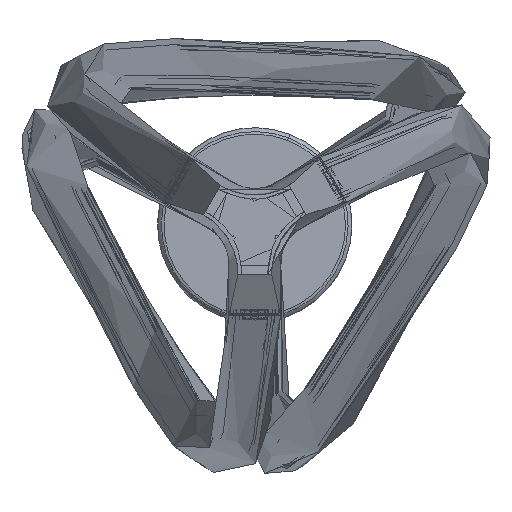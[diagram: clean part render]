
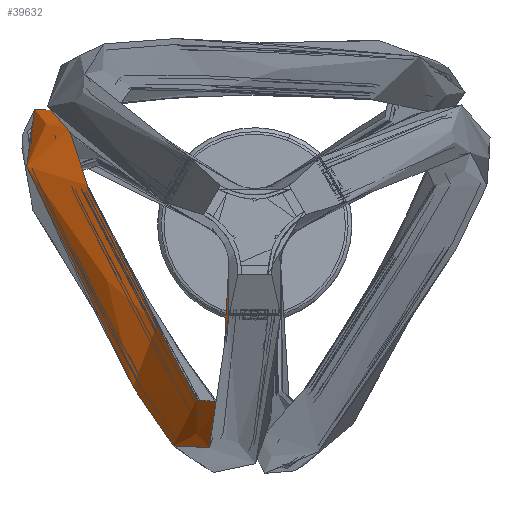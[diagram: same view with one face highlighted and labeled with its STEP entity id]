
A CAD part, front view. The second image highlights one B-rep face of the part: STEP entity #39632.
In plain terms, the highlighted free-form (B-spline) face has degree [3, 3] with [7, 7] control points.
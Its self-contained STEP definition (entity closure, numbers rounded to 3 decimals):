
#1219 = B_SPLINE_SURFACE_WITH_KNOTS ( 'NONE', 3, 3, ( 
 ( #36449, #36450, #36451, #36452, #36453, #36454, #36455 ),
 ( #36456, #36457, #36458, #36459, #36460, #36461, #36462 ),
 ( #36463, #36464, #36465, #36466, #36467, #36468, #36469 ),
 ( #36470, #36471, #36472, #36473, #36474, #36475, #36476 ),
 ( #36477, #36478, #36479, #36480, #36481, #36482, #36483 ),
 ( #36484, #36485, #36486, #36487, #36488, #36489, #36490 ),
 ( #36491, #36492, #36493, #36494, #36495, #36496, #36497 ) ),
 .UNSPECIFIED., .F., .F., .F.,
 ( 4, 1, 1, 1, 4 ),
 ( 4, 1, 1, 1, 4 ),
 ( 0., 0.038, 0.075, 0.113, 0.151 ),
 ( 0., 0.46, 0.514, 0.565, 1. ),
 .UNSPECIFIED. ) ;
#1586 = VECTOR ( 'NONE', #3356, 1000. ) ;
#1626 = VECTOR ( 'NONE', #3491, 1000. ) ;
#3138 = CARTESIAN_POINT ( 'NONE',  ( -8.451, -853.448, 16.472 ) ) ;
#3139 = CARTESIAN_POINT ( 'NONE',  ( -94.208, -462.365, 60.641 ) ) ;
#3140 = CARTESIAN_POINT ( 'NONE',  ( -39.519, -205.84, 53.57 ) ) ;
#3141 = CARTESIAN_POINT ( 'NONE',  ( 9.738, -1.236, 49.971 ) ) ;
#3142 = CARTESIAN_POINT ( 'NONE',  ( 56.871, 197.442, 47.458 ) ) ;
#3143 = CARTESIAN_POINT ( 'NONE',  ( 108.747, 461.636, 48.542 ) ) ;
#3144 = CARTESIAN_POINT ( 'NONE',  ( 18.558, 853.471, -0.832 ) ) ;
#3350 = CARTESIAN_POINT ( 'NONE',  ( -25.347, -857.777, 26.258 ) ) ;
#3354 = LINE ( 'NONE', #3355, #1586 ) ;
#3355 = CARTESIAN_POINT ( 'NONE',  ( -8.451, -853.448, 16.472 ) ) ;
#3356 = DIRECTION ( 'NONE',  ( -0.845, -0.216, 0.489 ) ) ;
#3363 = CARTESIAN_POINT ( 'NONE',  ( -106.13, -465.422, 75.071 ) ) ;
#3364 = CARTESIAN_POINT ( 'NONE',  ( -45.883, -207.475, 73.189 ) ) ;
#3365 = CARTESIAN_POINT ( 'NONE',  ( 9.703, -1.245, 70.028 ) ) ;
#3366 = CARTESIAN_POINT ( 'NONE',  ( 62.93, 199., 66.785 ) ) ;
#3367 = CARTESIAN_POINT ( 'NONE',  ( 120.467, 464.656, 62.931 ) ) ;
#3368 = CARTESIAN_POINT ( 'NONE',  ( 35.347, 857.799, 9.139 ) ) ;
#3489 = LINE ( 'NONE', #3490, #1626 ) ;
#3490 = CARTESIAN_POINT ( 'NONE',  ( -149.22, 810.213, -100.478 ) ) ;
#3491 = DIRECTION ( 'NONE',  ( -0.839, -0.216, -0.499 ) ) ;
#4259 = ORIENTED_EDGE ( 'NONE', *, *, #40099, .F. ) ;
#4267 = ORIENTED_EDGE ( 'NONE', *, *, #40057, .F. ) ;
#4273 = ORIENTED_EDGE ( 'NONE', *, *, #40060, .F. ) ;
#4292 = ORIENTED_EDGE ( 'NONE', *, *, #40026, .T. ) ;
#13157 = EDGE_LOOP ( 'NONE', ( #4267, #4292, #4259, #4273 ) ) ;
#14655 = VERTEX_POINT ( 'NONE', #27007 ) ;
#14656 = VERTEX_POINT ( 'NONE', #27008 ) ;
#15448 = VERTEX_POINT ( 'NONE', #27711 ) ;
#15453 = VERTEX_POINT ( 'NONE', #27714 ) ;
#23192 = B_SPLINE_CURVE_WITH_KNOTS ( 'NONE', 3,
 ( #3138, #3139, #3140, #3141, #3142, #3143, #3144 ),
 .UNSPECIFIED., .F., .F.,
 ( 4, 1, 1, 1, 4 ),
 ( 0., 0.46, 0.514, 0.565, 1. ),
 .UNSPECIFIED. ) ;
#23216 = B_SPLINE_CURVE_WITH_KNOTS ( 'NONE', 3,
 ( #3350, #3363, #3364, #3365, #3366, #3367, #3368 ),
 .UNSPECIFIED., .F., .F.,
 ( 4, 1, 1, 1, 4 ),
 ( 0., 0.46, 0.514, 0.565, 1. ),
 .UNSPECIFIED. ) ;
#27007 = CARTESIAN_POINT ( 'NONE',  ( 18.558, 853.471, -0.832 ) ) ;
#27008 = CARTESIAN_POINT ( 'NONE',  ( -8.451, -853.448, 16.472 ) ) ;
#27711 = CARTESIAN_POINT ( 'NONE',  ( -25.347, -857.777, 26.258 ) ) ;
#27714 = CARTESIAN_POINT ( 'NONE',  ( 35.347, 857.799, 9.139 ) ) ;
#33843 = FACE_OUTER_BOUND ( 'NONE', #13157, .T. ) ;
#36449 = CARTESIAN_POINT ( 'NONE',  ( -25.347, -857.777, 26.258 ) ) ;
#36450 = CARTESIAN_POINT ( 'NONE',  ( -106.13, -465.422, 75.071 ) ) ;
#36451 = CARTESIAN_POINT ( 'NONE',  ( -45.883, -207.475, 73.189 ) ) ;
#36452 = CARTESIAN_POINT ( 'NONE',  ( 9.703, -1.245, 70.028 ) ) ;
#36453 = CARTESIAN_POINT ( 'NONE',  ( 62.93, 199., 66.785 ) ) ;
#36454 = CARTESIAN_POINT ( 'NONE',  ( 120.467, 464.656, 62.931 ) ) ;
#36455 = CARTESIAN_POINT ( 'NONE',  ( 35.347, 857.799, 9.139 ) ) ;
#36456 = CARTESIAN_POINT ( 'NONE',  ( -23.939, -857.416, 25.443 ) ) ;
#36457 = CARTESIAN_POINT ( 'NONE',  ( -105.136, -465.167, 73.868 ) ) ;
#36458 = CARTESIAN_POINT ( 'NONE',  ( -45.352, -207.339, 71.554 ) ) ;
#36459 = CARTESIAN_POINT ( 'NONE',  ( 9.706, -1.244, 68.357 ) ) ;
#36460 = CARTESIAN_POINT ( 'NONE',  ( 62.425, 198.871, 65.175 ) ) ;
#36461 = CARTESIAN_POINT ( 'NONE',  ( 119.491, 464.404, 61.732 ) ) ;
#36462 = CARTESIAN_POINT ( 'NONE',  ( 33.948, 857.439, 8.308 ) ) ;
#36463 = CARTESIAN_POINT ( 'NONE',  ( -21.123, -856.695, 23.812 ) ) ;
#36464 = CARTESIAN_POINT ( 'NONE',  ( -103.149, -464.658, 71.463 ) ) ;
#36465 = CARTESIAN_POINT ( 'NONE',  ( -44.292, -207.066, 68.284 ) ) ;
#36466 = CARTESIAN_POINT ( 'NONE',  ( 9.712, -1.243, 65.014 ) ) ;
#36467 = CARTESIAN_POINT ( 'NONE',  ( 61.415, 198.611, 61.953 ) ) ;
#36468 = CARTESIAN_POINT ( 'NONE',  ( 117.537, 463.901, 59.334 ) ) ;
#36469 = CARTESIAN_POINT ( 'NONE',  ( 31.149, 856.717, 6.647 ) ) ;
#36470 = CARTESIAN_POINT ( 'NONE',  ( -16.899, -855.613, 21.365 ) ) ;
#36471 = CARTESIAN_POINT ( 'NONE',  ( -100.169, -463.893, 67.856 ) ) ;
#36472 = CARTESIAN_POINT ( 'NONE',  ( -42.701, -206.657, 63.38 ) ) ;
#36473 = CARTESIAN_POINT ( 'NONE',  ( 9.721, -1.24, 60. ) ) ;
#36474 = CARTESIAN_POINT ( 'NONE',  ( 59.9, 198.221, 57.122 ) ) ;
#36475 = CARTESIAN_POINT ( 'NONE',  ( 114.607, 463.146, 55.737 ) ) ;
#36476 = CARTESIAN_POINT ( 'NONE',  ( 26.952, 855.635, 4.154 ) ) ;
#36477 = CARTESIAN_POINT ( 'NONE',  ( -12.675, -854.531, 18.919 ) ) ;
#36478 = CARTESIAN_POINT ( 'NONE',  ( -97.188, -463.129, 64.248 ) ) ;
#36479 = CARTESIAN_POINT ( 'NONE',  ( -41.11, -206.249, 58.475 ) ) ;
#36480 = CARTESIAN_POINT ( 'NONE',  ( 9.729, -1.238, 54.985 ) ) ;
#36481 = CARTESIAN_POINT ( 'NONE',  ( 58.386, 197.832, 52.29 ) ) ;
#36482 = CARTESIAN_POINT ( 'NONE',  ( 111.677, 462.391, 52.139 ) ) ;
#36483 = CARTESIAN_POINT ( 'NONE',  ( 22.755, 854.553, 1.661 ) ) ;
#36484 = CARTESIAN_POINT ( 'NONE',  ( -9.859, -853.809, 17.288 ) ) ;
#36485 = CARTESIAN_POINT ( 'NONE',  ( -95.201, -462.62, 61.843 ) ) ;
#36486 = CARTESIAN_POINT ( 'NONE',  ( -40.049, -205.976, 55.205 ) ) ;
#36487 = CARTESIAN_POINT ( 'NONE',  ( 9.735, -1.237, 51.643 ) ) ;
#36488 = CARTESIAN_POINT ( 'NONE',  ( 57.376, 197.572, 49.069 ) ) ;
#36489 = CARTESIAN_POINT ( 'NONE',  ( 109.724, 461.888, 49.741 ) ) ;
#36490 = CARTESIAN_POINT ( 'NONE',  ( 19.957, 853.832, -0.001 ) ) ;
#36491 = CARTESIAN_POINT ( 'NONE',  ( -8.451, -853.448, 16.472 ) ) ;
#36492 = CARTESIAN_POINT ( 'NONE',  ( -94.208, -462.365, 60.641 ) ) ;
#36493 = CARTESIAN_POINT ( 'NONE',  ( -39.519, -205.84, 53.57 ) ) ;
#36494 = CARTESIAN_POINT ( 'NONE',  ( 9.738, -1.236, 49.971 ) ) ;
#36495 = CARTESIAN_POINT ( 'NONE',  ( 56.871, 197.442, 47.458 ) ) ;
#36496 = CARTESIAN_POINT ( 'NONE',  ( 108.747, 461.636, 48.542 ) ) ;
#36497 = CARTESIAN_POINT ( 'NONE',  ( 18.558, 853.471, -0.832 ) ) ;
#39632 = ADVANCED_FACE ( 'NONE', ( #33843 ), #1219, .T. ) ;
#40026 = EDGE_CURVE ( 'NONE', #14656, #14655, #23192, .T. ) ;
#40057 = EDGE_CURVE ( 'NONE', #14656, #15448, #3354, .T. ) ;
#40060 = EDGE_CURVE ( 'NONE', #15448, #15453, #23216, .T. ) ;
#40099 = EDGE_CURVE ( 'NONE', #15453, #14655, #3489, .T. ) ;
